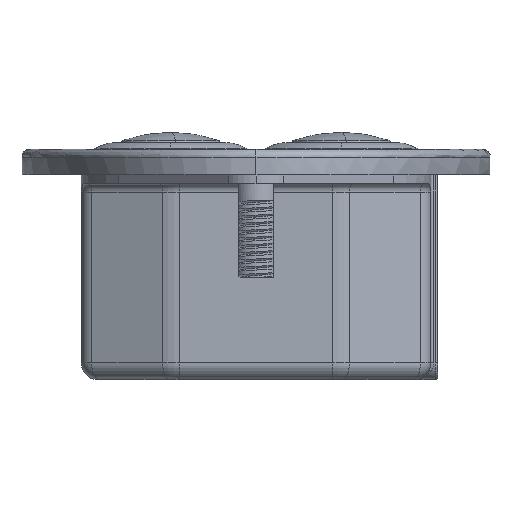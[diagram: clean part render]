
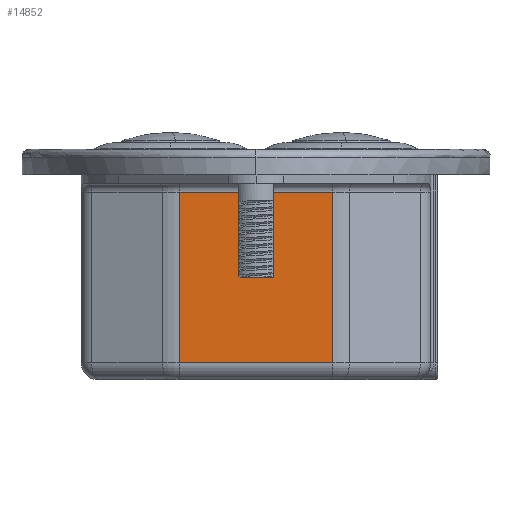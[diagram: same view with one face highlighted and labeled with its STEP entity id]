
A CAD part, left-side view. The second image highlights one B-rep face of the part: STEP entity #14852.
In plain terms, the highlighted planar face has unit normal (-1, 0, 0).
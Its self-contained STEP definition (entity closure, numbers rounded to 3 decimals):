
#2203 = EDGE_CURVE ( 'NONE', #2826, #2827, #35031, .T. ) ;
#2204 = EDGE_CURVE ( 'NONE', #2825, #2826, #3573, .T. ) ;
#2205 = EDGE_CURVE ( 'NONE', #2828, #2825, #35035, .T. ) ;
#2825 = VERTEX_POINT ( 'NONE', #18370 ) ;
#2826 = VERTEX_POINT ( 'NONE', #18371 ) ;
#2827 = VERTEX_POINT ( 'NONE', #18372 ) ;
#2828 = VERTEX_POINT ( 'NONE', #18373 ) ;
#3396 = EDGE_LOOP ( 'NONE', ( #20206, #20208, #20210, #20212 ) ) ;
#3573 = LINE ( 'NONE', #36197, #35034 ) ;
#4512 = CARTESIAN_POINT ( 'NONE',  ( -23.5, -20.5, -27. ) ) ;
#4520 = PLANE ( 'NONE',  #26780 ) ;
#4539 = DIRECTION ( 'NONE',  ( 1., 0., 0. ) ) ;
#4540 = DIRECTION ( 'NONE',  ( 0., 1., 0. ) ) ;
#7498 = FACE_OUTER_BOUND ( 'NONE', #3396, .T. ) ;
#14638 = EDGE_CURVE ( 'NONE', #2827, #2828, #22910, .T. ) ;
#14852 = ADVANCED_FACE ( 'NONE', ( #7498 ), #4520, .F. ) ;
#18370 = CARTESIAN_POINT ( 'NONE',  ( -23.5, -8.974, -25. ) ) ;
#18371 = CARTESIAN_POINT ( 'NONE',  ( -23.5, -8.974, -5. ) ) ;
#18372 = CARTESIAN_POINT ( 'NONE',  ( -23.5, 8.974, -5. ) ) ;
#18373 = CARTESIAN_POINT ( 'NONE',  ( -23.5, 8.974, -25. ) ) ;
#20206 = ORIENTED_EDGE ( 'NONE', *, *, #2204, .T. ) ;
#20208 = ORIENTED_EDGE ( 'NONE', *, *, #2203, .T. ) ;
#20210 = ORIENTED_EDGE ( 'NONE', *, *, #14638, .T. ) ;
#20212 = ORIENTED_EDGE ( 'NONE', *, *, #2205, .T. ) ;
#22904 = VECTOR ( 'NONE', #23343, 1000. ) ;
#22910 = LINE ( 'NONE', #23330, #22904 ) ;
#23330 = CARTESIAN_POINT ( 'NONE',  ( -23.5, 8.974, -27. ) ) ;
#23343 = DIRECTION ( 'NONE',  ( 0., 0., -1. ) ) ;
#26780 = AXIS2_PLACEMENT_3D ( 'NONE', #4512, #4539, #4540 ) ;
#35031 = LINE ( 'NONE', #36127, #35033 ) ;
#35033 = VECTOR ( 'NONE', #36198, 1000. ) ;
#35034 = VECTOR ( 'NONE', #36200, 1000. ) ;
#35035 = LINE ( 'NONE', #36201, #35036 ) ;
#35036 = VECTOR ( 'NONE', #36202, 1000. ) ;
#36127 = CARTESIAN_POINT ( 'NONE',  ( -23.5, -20.5, -5. ) ) ;
#36197 = CARTESIAN_POINT ( 'NONE',  ( -23.5, -8.974, -27. ) ) ;
#36198 = DIRECTION ( 'NONE',  ( 0., 1., 0. ) ) ;
#36200 = DIRECTION ( 'NONE',  ( 0., 0., 1. ) ) ;
#36201 = CARTESIAN_POINT ( 'NONE',  ( -23.5, -10., -25. ) ) ;
#36202 = DIRECTION ( 'NONE',  ( 0., -1., 0. ) ) ;
